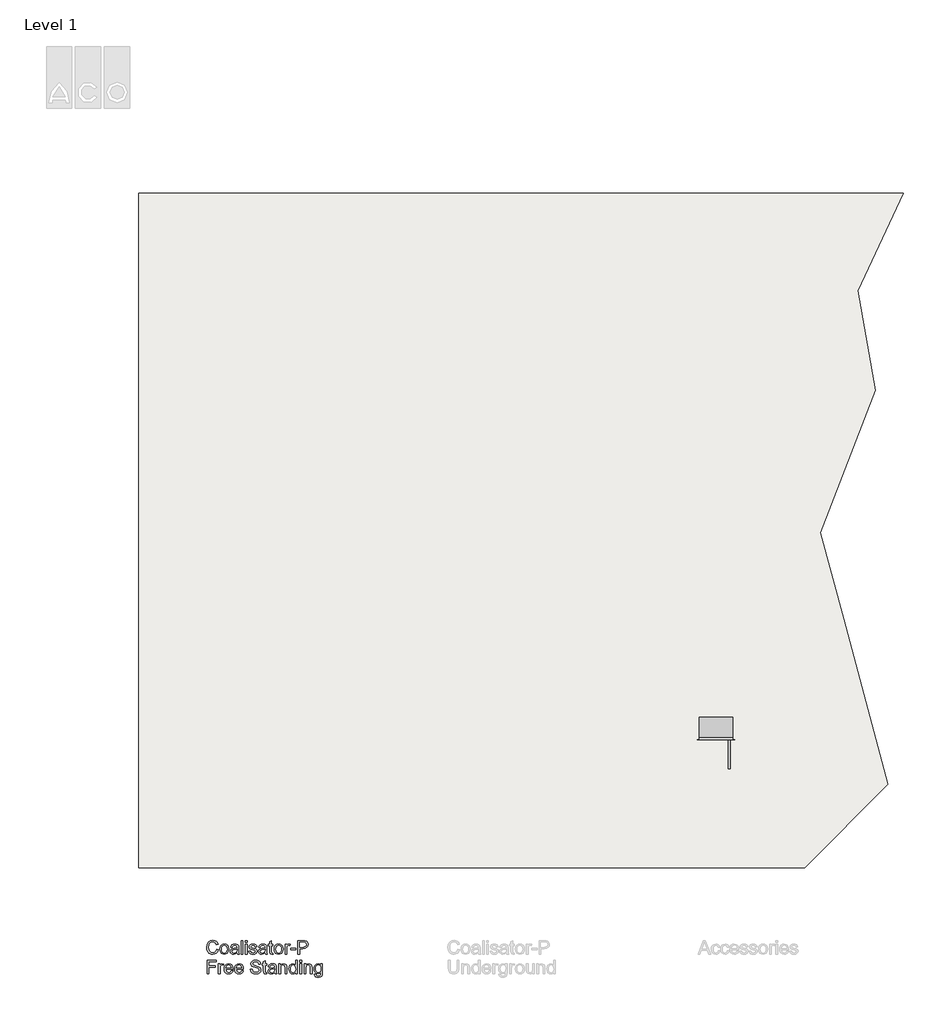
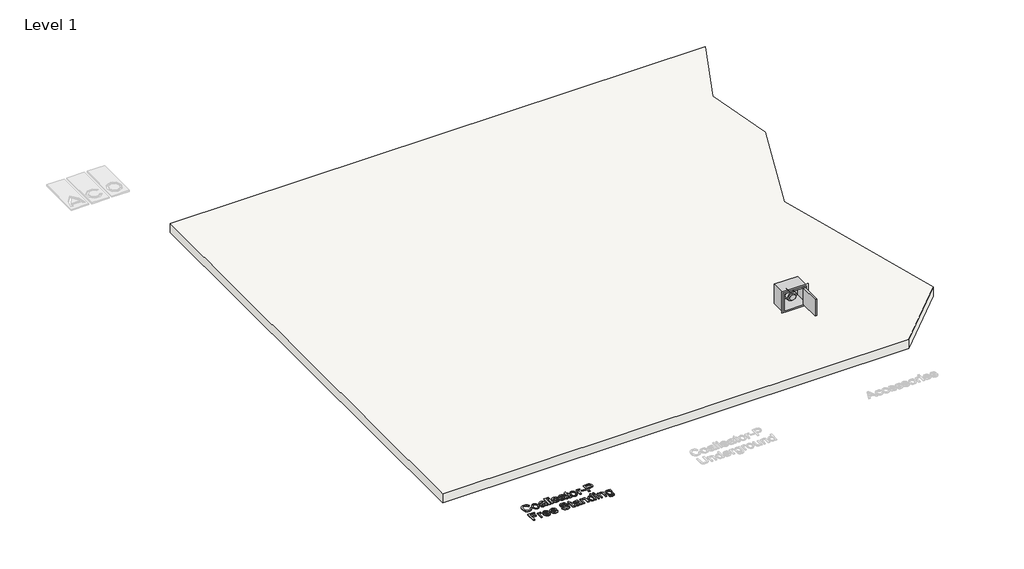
# One storey, part 1 of 2: 1 furniture element, 1 proxy, 1 slab.
"""IFC4 building model written with IfcOpenShell, lengths in millimetres."""

import ifcopenshell
import ifcopenshell.guid

model = None  # the IFC model being written
_history = None  # IfcOwnerHistory: only IFC2X3 demands one
_inside = {}  # id of a spatial element -> (the spatial element, [elements in it])
_under = {}  # id of a project, library or spatial element -> (it, [spatial elements below it])
_declared = {}  # id of a project -> (the project, [libraries it declares])
_typed = {}  # id of a type object -> (the type object, [elements of that type])
_made_of = {}  # id of a material, layer set ... -> (it, [elements and type objects made of it])


def new_model(schema):
    """Start an empty IFC model of exactly this schema.

    Asked for "IFC4X3", IfcOpenShell would pick the latest addendum, in which some entities
    have other attributes; the version numbers below select the first issue.
    IFC2X3 requires an IfcOwnerHistory on every rooted entity: one is made here for all.
    """
    global model, _history
    if schema == "IFC4X3":
        model = ifcopenshell.file(schema_version=(4, 3, 0, 0))
    else:
        model = ifcopenshell.file(schema=schema)
    _inside.clear()
    _under.clear()
    _declared.clear()
    _typed.clear()
    _made_of.clear()
    _history = None
    if model.schema == "IFC2X3":
        org = make("IfcOrganization", Name="unknown")
        user = make(
            "IfcPersonAndOrganization",
            ThePerson=make("IfcPerson", FamilyName="unknown"),
            TheOrganization=org,
        )
        app = make(
            "IfcApplication",
            ApplicationDeveloper=org,
            Version="unknown",
            ApplicationFullName="unknown",
            ApplicationIdentifier="unknown",
        )
        _history = make(
            "IfcOwnerHistory",
            OwningUser=user,
            OwningApplication=app,
            ChangeAction="ADDED",
            CreationDate=0,
        )
    return model


def make(cls, **values):
    """One entity of the class cls with the attributes given. An attribute that is None is left unset."""
    return model.create_entity(
        cls, **{name: value for name, value in values.items() if value is not None}
    )


def rooted(cls, **values):
    """An entity with a GlobalId (a new one), such as an element, a storey or a relation."""
    return make(cls, GlobalId=ifcopenshell.guid.new(), OwnerHistory=_history, **values)


def si_unit(unit_type, name, prefix=None):
    """IfcSIUnit, for example si_unit("LENGTHUNIT", "METRE", prefix="MILLI")."""
    return make("IfcSIUnit", UnitType=unit_type, Prefix=prefix, Name=name)


def assignment(units):
    """IfcUnitAssignment: the units of a project."""
    return None if units is None else make("IfcUnitAssignment", Units=units)


def point(xyz):
    """IfcCartesianPoint."""
    return None if xyz is None else make("IfcCartesianPoint", Coordinates=xyz)


def direction(xyz):
    """IfcDirection."""
    return None if xyz is None else make("IfcDirection", DirectionRatios=xyz)


def frame(location, z_axis=None, x_axis=None):
    """IfcAxis2Placement3D, a coordinate frame: its origin and axes. An axis left out is left unset."""
    return make(
        "IfcAxis2Placement3D",
        Location=point(location),
        Axis=direction(z_axis),
        RefDirection=direction(x_axis),
    )


def frame_2d(location, x_axis=None):
    """IfcAxis2Placement2D, a coordinate frame in the plane: its origin and x axis."""
    return make(
        "IfcAxis2Placement2D", Location=point(location), RefDirection=direction(x_axis)
    )


def origin():
    """The frame at (0, 0, 0) with its axes left unset."""
    return frame((0.0, 0.0, 0.0))


def origin_with_axes():
    """The frame at (0, 0, 0) with the z axis (0, 0, 1) and the x axis (1, 0, 0) written out."""
    return frame((0.0, 0.0, 0.0), z_axis=(0.0, 0.0, 1.0), x_axis=(1.0, 0.0, 0.0))


def place(relative_to, where):
    """IfcLocalPlacement: puts the frame where relative to a parent placement (None: the world)."""
    return make(
        "IfcLocalPlacement", PlacementRelTo=relative_to, RelativePlacement=where
    )


def context(
    kind, dimensions, precision=None, world=None, true_north=None, identifier=None
):
    """IfcGeometricRepresentationContext, for example the 3D "Model" context."""
    return make(
        "IfcGeometricRepresentationContext",
        ContextIdentifier=identifier,
        ContextType=kind,
        CoordinateSpaceDimension=dimensions,
        Precision=precision,
        WorldCoordinateSystem=world,
        TrueNorth=true_north,
    )


def project(units=None, contexts=None):
    """IfcProject with its units and contexts."""
    return rooted(
        "IfcProject",
        Name="project",
        RepresentationContexts=contexts,
        UnitsInContext=assignment(units),
    )


def spatial(cls, under=None, at=None, **own):
    """A site, building, storey or space (cls), placed at a placement, below another one or the project."""
    s = rooted(cls, ObjectPlacement=at, **own)
    if under is not None:
        _under.setdefault(under.id(), (under, []))[1].append(s)
    return s


def polyline(points):
    """IfcPolyline through the points."""
    return make("IfcPolyline", Points=[point(p) for p in points])


def circle_curve(where, radius):
    """IfcCircle in the frame where."""
    return make("IfcCircle", Position=where, Radius=radius)


def trimmed(basis, trim1, trim2, sense, master):
    """IfcTrimmedCurve: the piece of a basis curve between two trims."""
    return make(
        "IfcTrimmedCurve",
        BasisCurve=basis,
        Trim1=trim1,
        Trim2=trim2,
        SenseAgreement=sense,
        MasterRepresentation=master,
    )


def segment(curve, same_sense, transition):
    """IfcCompositeCurveSegment."""
    return make(
        "IfcCompositeCurveSegment",
        Transition=transition,
        SameSense=same_sense,
        ParentCurve=curve,
    )


def composite_curve(segments, self_intersect=None):
    """IfcCompositeCurve: segments joined end to end."""
    return make("IfcCompositeCurve", Segments=segments, SelfIntersect=self_intersect)


def outline(outer, holes=None, kind="AREA"):
    """IfcArbitraryClosedProfileDef: a profile drawn as a closed curve; with holes, ...WithVoids."""
    if holes is None:
        return make("IfcArbitraryClosedProfileDef", ProfileType=kind, OuterCurve=outer)
    return make(
        "IfcArbitraryProfileDefWithVoids",
        ProfileType=kind,
        OuterCurve=outer,
        InnerCurves=holes,
    )


def extrude(swept, where, along, depth):
    """IfcExtrudedAreaSolid: the profile swept, set in the frame where, extruded along a direction by depth."""
    return make(
        "IfcExtrudedAreaSolid",
        SweptArea=swept,
        Position=where,
        ExtrudedDirection=direction(along),
        Depth=depth,
    )


def shape(context_of_items, identifier, shape_type, items):
    """IfcShapeRepresentation: the items that make up one representation, for example the "Body"."""
    return make(
        "IfcShapeRepresentation",
        ContextOfItems=context_of_items,
        RepresentationIdentifier=identifier,
        RepresentationType=shape_type,
        Items=items,
    )


def source(mapping_origin, context_of_items, identifier, shape_type, items):
    """IfcRepresentationMap: a shape defined once, which mapped items show again and again."""
    return make(
        "IfcRepresentationMap",
        MappingOrigin=mapping_origin,
        MappedRepresentation=shape(context_of_items, identifier, shape_type, items),
    )


def transform(
    local_origin,
    x_axis=None,
    y_axis=None,
    z_axis=None,
    scale=None,
    scale2=None,
    scale3=None,
    uniform=True,
):
    """IfcCartesianTransformationOperator3D, or its non-uniform kind. x_axis, y_axis, z_axis: its Axis1, 2, 3."""
    if uniform:
        return make(
            "IfcCartesianTransformationOperator3D",
            Axis1=direction(x_axis),
            Axis2=direction(y_axis),
            LocalOrigin=point(local_origin),
            Scale=scale,
            Axis3=direction(z_axis),
        )
    return make(
        "IfcCartesianTransformationOperator3DnonUniform",
        Axis1=direction(x_axis),
        Axis2=direction(y_axis),
        LocalOrigin=point(local_origin),
        Scale=scale,
        Axis3=direction(z_axis),
        Scale2=scale2,
        Scale3=scale3,
    )


def mapped(mapping_source, mapping_target):
    """IfcMappedItem: shows the shape of a source again, moved by a transform."""
    return make(
        "IfcMappedItem", MappingSource=mapping_source, MappingTarget=mapping_target
    )


def made_of(thing, what):
    """Note that an element or type object is made of a material, layer set ...; save() writes the relation."""
    if what is not None:
        _made_of.setdefault(what.id(), (what, []))[1].append(thing)
    return thing


def element(
    cls,
    number,
    at=None,
    inside=None,
    cuts=None,
    type_object=None,
    material=None,
    context=None,
    identifier="Body",
    shape_type=None,
    held_by="IfcProductDefinitionShape",
    body=None,
    shapes=None,
    **own,
):
    """One element of the class cls, such as IfcWall. Its Tag is "e" and its number.

    at: its placement. inside: the storey or other place that contains it. cuts: it is an
    opening in that element (IfcRelVoidsElement). A single representation is given by context,
    identifier, shape_type and body (its items); several are given by shapes. held_by: the class
    of the entity that holds the representations. save() writes the other relations.
    """
    e = rooted(cls, Tag="e%d" % number, ObjectPlacement=at, **own)
    if body is not None:
        shapes = [shape(context, identifier, shape_type, body)]
    if shapes is not None:
        e.Representation = make(held_by, Representations=shapes)
    if inside is not None:
        _inside.setdefault(inside.id(), (inside, []))[1].append(e)
    if cuts is not None:
        rooted(
            "IfcRelVoidsElement", RelatingBuildingElement=cuts, RelatedOpeningElement=e
        )
    if type_object is not None:
        _typed.setdefault(type_object.id(), (type_object, []))[1].append(e)
    return made_of(e, material)


def aggregate(whole, parts):
    """IfcRelAggregates: a whole, such as a stair, and the parts it consists of."""
    return rooted("IfcRelAggregates", RelatingObject=whole, RelatedObjects=parts)


def save(model, path):
    """Write the relations noted so far, then the file.

    IfcRelAggregates (storeys below a building ...), IfcRelContainedInSpatialStructure (elements
    in a storey), IfcRelDefinesByType, IfcRelAssociatesMaterial and IfcRelDeclares: one each for
    every whole, place, type object, material and project.
    """
    for whole, parts in _under.values():
        aggregate(whole, parts)
    for where, things in _inside.values():
        rooted(
            "IfcRelContainedInSpatialStructure",
            RelatedElements=things,
            RelatingStructure=where,
        )
    for kind, things in _typed.values():
        rooted("IfcRelDefinesByType", RelatedObjects=things, RelatingType=kind)
    for what, things in _made_of.values():
        rooted("IfcRelAssociatesMaterial", RelatedObjects=things, RelatingMaterial=what)
    for by, libraries in _declared.values():
        rooted("IfcRelDeclares", RelatingContext=by, RelatedDefinitions=libraries)
    model.write(path)


def plane_surface(at):
    """IfcPlane: the flat surface through the origin of the frame at, square to its z axis."""
    return make("IfcPlane", Position=at)


def cylinder_surface(at, radius):
    """IfcCylindricalSurface: all points at the distance radius from the z axis of the frame at."""
    return make("IfcCylindricalSurface", Position=at, Radius=radius)


def revolved_surface(curve, axis_point, axis_direction):
    """IfcSurfaceOfRevolution: the curve turned about the line through axis_point along axis_direction."""
    return make(
        "IfcSurfaceOfRevolution",
        SweptCurve=make("IfcArbitraryOpenProfileDef", ProfileType="CURVE", Curve=curve),
        AxisPosition=make("IfcAxis1Placement", Location=point(axis_point), Axis=direction(axis_direction)),
    )


def advanced_brep(points, edges, surfaces, faces):
    """IfcAdvancedBrep: a solid bounded by faces that lie on surfaces and meet in shared edges.

    An edge is (start, end): straight between two places in points (the first is 0);
    or (start, end, curve); or (start, end, curve, False) where it runs against its curve.
    A face is (place in surfaces, loops), or (place, loops, False) where it looks against
    its surface's normal. A loop lists edges by number (the first is 1), with a minus sign
    where the edge is run from its end to its start. The first loop is the outer one.
    """
    corners = [point(p) for p in points]
    vertices = [make("IfcVertexPoint", VertexGeometry=c) for c in corners]
    made = []
    for start, end, *more in edges:
        made.append(
            make(
                "IfcEdgeCurve",
                EdgeStart=vertices[start],
                EdgeEnd=vertices[end],
                EdgeGeometry=more[0] if more else make("IfcPolyline", Points=[corners[start], corners[end]]),
                SameSense=more[1] if len(more) > 1 else True,
            )
        )
    hull = []
    for where, loops, *sense in faces:
        bounds = []
        for j, loop in enumerate(loops):
            ring = [make("IfcOrientedEdge", EdgeElement=made[abs(k) - 1], Orientation=k > 0) for k in loop]
            bounds.append(
                make(
                    "IfcFaceOuterBound" if j == 0 else "IfcFaceBound",
                    Bound=make("IfcEdgeLoop", EdgeList=ring),
                    Orientation=True,
                )
            )
        hull.append(make("IfcAdvancedFace", Bounds=bounds, FaceSurface=surfaces[where], SameSense=sense[0] if sense else True))
    return make("IfcAdvancedBrep", Outer=make("IfcClosedShell", CfsFaces=hull))


def furniture_370x330x250_b7c620b6(model_context):
    return source(origin(), model_context, "Body", "SolidModel", [
        extrude(outline(composite_curve([segment(trimmed(circle_curve(frame_2d((175.0, -10.0)), 25.0), [point((150.0, -10.0))], [point((200.0, -10.0))], False, "CARTESIAN"), True, "CONTINUOUS"), segment(trimmed(circle_curve(frame_2d((175.0, -10.0)), 25.0), [point((200.0, -10.0))], [point((150.0, -10.0))], False, "CARTESIAN"), True, "CONTINUOUS")], self_intersect=False)), frame((0.0, 148.0, 0.0), z_axis=(0.0, 1.0, 0.0), x_axis=(0.0, 0.0, 1.0)), (0.0, 0.0, 1.0), 102.0),
        advanced_brep(
        [(-10.0, 148.0, 127.0), (-10.0, 148.0, 223.0), (-10.0, 40.0, 127.0), (-10.0, 40.0, 223.0), (-10.0, 118.0, 223.0), (-10.0, 118.0, 127.0), (-10.0, 70.0, 127.0), (-10.0, 70.0, 223.0), (-10.0, 118.0, 100.0), (-10.0, 118.0, 250.0), (-10.0, 70.0, 100.0), (-10.0, 70.0, 250.0)],
        [
            (0, 1, circle_curve(frame((-10.0, 148.0, 175.0), z_axis=(0.0, 1.0, 0.0), x_axis=(0.0, 0.0, 1.0)), 48.0)),
            (1, 0, circle_curve(frame((-10.0, 148.0, 175.0), z_axis=(0.0, 1.0, 0.0), x_axis=(0.0, 0.0, 1.0)), 48.0)),
            (2, 3, circle_curve(frame((-10.0, 40.0, 175.0), z_axis=(0.0, -1.0, 0.0), x_axis=(0.0, 0.0, 1.0)), 48.0)),
            (3, 2, circle_curve(frame((-10.0, 40.0, 175.0), z_axis=(0.0, -1.0, 0.0), x_axis=(0.0, 0.0, 1.0)), 48.0)),
            (1, 4),
            (4, 5, circle_curve(frame((-10.0, 118.0, 175.0), z_axis=(0.0, 1.0, 0.0), x_axis=(0.0, 0.0, 1.0)), 48.0)),
            (5, 0),
            (2, 6),
            (6, 7, circle_curve(frame((-10.0, 70.0, 175.0), z_axis=(0.0, -1.0, 0.0), x_axis=(0.0, 0.0, 1.0)), 48.0)),
            (7, 3),
            (5, 4, circle_curve(frame((-10.0, 118.0, 175.0), z_axis=(0.0, 1.0, 0.0), x_axis=(0.0, 0.0, 1.0)), 48.0)),
            (7, 6, circle_curve(frame((-10.0, 70.0, 175.0), z_axis=(0.0, -1.0, 0.0), x_axis=(0.0, 0.0, 1.0)), 48.0)),
            (8, 9, circle_curve(frame((-10.0, 118.0, 175.0), z_axis=(0.0, 1.0, 0.0), x_axis=(0.0, 0.0, 1.0)), 75.0)),
            (9, 8, circle_curve(frame((-10.0, 118.0, 175.0), z_axis=(0.0, 1.0, 0.0), x_axis=(0.0, 0.0, 1.0)), 75.0)),
            (10, 11, circle_curve(frame((-10.0, 70.0, 175.0), z_axis=(0.0, -1.0, 0.0), x_axis=(0.0, 0.0, 1.0)), 75.0)),
            (11, 10, circle_curve(frame((-10.0, 70.0, 175.0), z_axis=(0.0, -1.0, 0.0), x_axis=(0.0, 0.0, 1.0)), 75.0)),
            (9, 11),
            (10, 8),
        ],
        [
            plane_surface(frame((-10.0, 148.0, 223.0), z_axis=(0.0, 1.0, 0.0), x_axis=(1.0, 0.0, 0.0))),
            plane_surface(frame((-10.0, 40.0, 223.0), z_axis=(0.0, -1.0, 0.0), x_axis=(-1.0, 0.0, 0.0))),
            cylinder_surface(frame((-10.0, 148.0, 175.0), z_axis=(0.0, -1.0, 0.0), x_axis=(0.0, 0.0, 1.0)), 48.0),
            plane_surface(frame((-10.0, 118.0, 250.0), z_axis=(0.0, 1.0, 0.0), x_axis=(1.0, 0.0, 0.0))),
            plane_surface(frame((-10.0, 70.0, 250.0), z_axis=(0.0, -1.0, 0.0), x_axis=(-1.0, 0.0, 0.0))),
            cylinder_surface(frame((-10.0, 118.0, 175.0), z_axis=(0.0, -1.0, 0.0), x_axis=(0.0, 0.0, 1.0)), 75.0),
        ],
        [
            (0, [[1, 2]]),
            (1, [[3, 4]]),
            (2, [[-2, 5, 6, 7]]),
            (2, [[-3, 8, 9, 10]]),
            (2, [[-1, -7, 11, -5]]),
            (2, [[-4, -10, 12, -8]]),
            (3, [[13, 14], [-6, -11]]),
            (4, [[15, 16], [-9, -12]]),
            (5, [[-14, 17, -15, 18]]),
            (5, [[-13, -18, -16, -17]]),
        ],
    ),
        extrude(outline(polyline([(134.5, -319.0), (134.5, 0.0), (159.5, 0.0), (159.5, -319.0), (134.5, -319.0)])), frame((0.0, 0.0, 25.5), z_axis=(0.0, 0.0, 1.0), x_axis=(1.0, 0.0, 0.0)), (0.0, 0.0, 1.0), 279.0),
        advanced_brep(
        [(185.0, 250.0, 330.0), (-185.0, 250.0, 330.0), (-185.0, 0.0, 330.0), (185.0, 0.0, 330.0), (185.0, 250.0, 0.0), (185.0, 0.0, 0.0), (-185.0, 0.0, 0.0), (-185.0, 250.0, 0.0), (-56.0, 250.0, 175.0), (36.0, 250.0, 175.0), (70.0, 250.0, 175.0), (110.0, 250.0, 175.0), (-160.0, 0.0, 305.0), (160.0, 0.0, 305.0), (160.0, 0.0, 25.0), (-160.0, 0.0, 25.0), (183.0, 248.0, 305.0), (183.0, 2.0, 305.0), (160.0, 2.0, 305.0), (-160.0, 2.0, 305.0), (-183.0, 2.0, 305.0), (-183.0, 248.0, 305.0), (183.0, 248.0, 25.0), (-183.0, 248.0, 25.0), (-183.0, 2.0, 25.0), (-160.0, 2.0, 25.0), (160.0, 2.0, 25.0), (183.0, 2.0, 25.0), (36.0, 248.0, 175.0), (-56.0, 248.0, 175.0), (110.0, 248.0, 175.0), (70.0, 248.0, 175.0)],
        [
            (0, 1),
            (1, 2),
            (2, 3),
            (3, 0),
            (4, 5),
            (5, 6),
            (6, 7),
            (7, 4),
            (0, 4),
            (7, 1),
            (8, 9, circle_curve(frame((-10.0, 250.0, 175.0), z_axis=(0.0, -1.0, 0.0), x_axis=(1.0, 0.0, 0.0)), 46.0)),
            (9, 8, circle_curve(frame((-10.0, 250.0, 175.0), z_axis=(0.0, -1.0, 0.0), x_axis=(1.0, 0.0, 0.0)), 46.0)),
            (10, 11, circle_curve(frame((90.0, 250.0, 175.0), z_axis=(0.0, -1.0, 0.0), x_axis=(1.0, 0.0, 0.0)), 20.0)),
            (11, 10, circle_curve(frame((90.0, 250.0, 175.0), z_axis=(0.0, -1.0, 0.0), x_axis=(1.0, 0.0, 0.0)), 20.0)),
            (6, 2),
            (5, 3),
            (12, 13),
            (13, 14),
            (14, 15),
            (15, 12),
            (16, 17),
            (17, 18),
            (18, 13),
            (12, 19),
            (19, 20),
            (20, 21),
            (21, 16),
            (22, 23),
            (23, 24),
            (24, 25),
            (25, 15),
            (14, 26),
            (26, 27),
            (27, 22),
            (21, 23),
            (22, 16),
            (28, 29, circle_curve(frame((-10.0, 248.0, 175.0), z_axis=(0.0, 1.0, 0.0), x_axis=(1.0, 0.0, 0.0)), 46.0)),
            (29, 28, circle_curve(frame((-10.0, 248.0, 175.0), z_axis=(0.0, 1.0, 0.0), x_axis=(1.0, 0.0, 0.0)), 46.0)),
            (30, 31, circle_curve(frame((90.0, 248.0, 175.0), z_axis=(0.0, 1.0, 0.0), x_axis=(1.0, 0.0, 0.0)), 20.0)),
            (31, 30, circle_curve(frame((90.0, 248.0, 175.0), z_axis=(0.0, 1.0, 0.0), x_axis=(1.0, 0.0, 0.0)), 20.0)),
            (27, 17),
            (20, 24),
            (19, 25),
            (18, 26),
            (28, 9),
            (8, 29),
            (30, 11),
            (10, 31),
        ],
        [
            plane_surface(frame((-185.0, 250.0, 330.0), z_axis=(0.0, 0.0, 1.0), x_axis=(-1.0, 0.0, 0.0))),
            plane_surface(frame((-185.0, 250.0, 0.0), z_axis=(0.0, 0.0, -1.0), x_axis=(1.0, 0.0, 0.0))),
            plane_surface(frame((185.0, 250.0, 330.0), z_axis=(0.0, 1.0, 0.0), x_axis=(0.0, 0.0, -1.0))),
            plane_surface(frame((-185.0, 250.0, 330.0), z_axis=(-1.0, 0.0, 0.0), x_axis=(0.0, 0.0, -1.0))),
            plane_surface(frame((-185.0, 0.0, 330.0), z_axis=(0.0, -1.0, 0.0), x_axis=(0.0, 0.0, -1.0))),
            plane_surface(frame((185.0, 0.0, 330.0), z_axis=(1.0, 0.0, 0.0), x_axis=(0.0, 0.0, -1.0))),
            plane_surface(frame((-183.0, 248.0, 305.0), z_axis=(0.0, 0.0, -1.0), x_axis=(-1.0, 0.0, 0.0))),
            plane_surface(frame((-183.0, 248.0, 25.0), z_axis=(0.0, 0.0, 1.0), x_axis=(1.0, 0.0, 0.0))),
            plane_surface(frame((183.0, 248.0, 305.0), z_axis=(0.0, -1.0, 0.0), x_axis=(0.0, 0.0, -1.0))),
            plane_surface(frame((183.0, 2.0, 305.0), z_axis=(-1.0, 0.0, 0.0), x_axis=(0.0, 0.0, -1.0))),
            plane_surface(frame((-183.0, 248.0, 305.0), z_axis=(1.0, 0.0, 0.0), x_axis=(0.0, 0.0, -1.0))),
            plane_surface(frame((-183.0, 2.0, 305.0), z_axis=(0.0, 1.0, 0.0), x_axis=(0.0, 0.0, -1.0))),
            plane_surface(frame((-160.0, 2.0, 305.0), z_axis=(1.0, 0.0, 0.0), x_axis=(0.0, 0.0, -1.0))),
            plane_surface(frame((160.0, 0.0, 305.0), z_axis=(-1.0, 0.0, 0.0), x_axis=(0.0, 0.0, -1.0))),
            plane_surface(frame((160.0, 2.0, 305.0), z_axis=(0.0, 1.0, 0.0), x_axis=(0.0, 0.0, -1.0))),
            revolved_surface(polyline([(36.0, 248.0, 175.0), (36.0, 250.0, 175.0)]), (-10.0, 250.0, 175.0), (0.0, -1.0, 0.0)),
            revolved_surface(polyline([(110.0, 248.0, 175.0), (110.0, 250.0, 175.0)]), (90.0, 250.0, 175.0), (0.0, -1.0, 0.0)),
        ],
        [
            (0, [[1, 2, 3, 4]]),
            (1, [[5, 6, 7, 8]]),
            (2, [[-1, 9, -8, 10], [11, 12], [13, 14]]),
            (3, [[-2, -10, -7, 15]]),
            (4, [[-3, -15, -6, 16], [17, 18, 19, 20]]),
            (5, [[-4, -16, -5, -9]]),
            (6, [[21, 22, 23, -17, 24, 25, 26, 27]]),
            (7, [[28, 29, 30, 31, -19, 32, 33, 34]]),
            (8, [[-27, 35, -28, 36], [37, 38], [39, 40]]),
            (9, [[-21, -36, -34, 41]]),
            (10, [[-26, 42, -29, -35]]),
            (11, [[-25, 43, -30, -42]]),
            (12, [[-24, -20, -31, -43]]),
            (13, [[-23, 44, -32, -18]]),
            (14, [[-22, -41, -33, -44]]),
            (15, [[45, -11, 46, -37]]),
            (15, [[-45, -38, -46, -12]]),
            (16, [[47, -13, 48, -39]]),
            (16, [[-47, -40, -48, -14]]),
        ],
    ),
    ])


model = new_model("IFC4")

# Units and contexts
model_context = context("Model", 3, world=origin())
ifc_project = project(units=[si_unit("LENGTHUNIT", "METRE", prefix="MILLI")], contexts=[model_context])

# Site, building, storey
site = spatial("IfcSite", under=ifc_project)
building = spatial("IfcBuilding", under=site)
storey = spatial("IfcBuildingStorey", under=building, Name="Level 1", Elevation=0.0)

# Proxy
placement = place(None, origin())
element("IfcBuildingElementProxy", 1, Name="100mm ACO", ObjectType="100mm ACO", at=placement, inside=storey, context=model_context, shape_type="SweptSolid", body=[
    extrude(outline(polyline([(651.8134705, -2076.8716846), (642.9430278, -2099.1101829), (629.2657274, -2114.8708166), (611.5845208, -2124.2620926), (590.7023594, -2127.392518), (573.7915521, -2125.9466629), (559.3438524, -2121.6090978), (547.3592604, -2114.3798226), (537.837776, -2104.2588374), (525.4028802, -2078.7705562), (521.2579149, -2048.5730735), (526.1244514, -2016.4929954), (540.7240607, -1992.2145666), (562.9734097, -1976.9313634), (590.7891649, -1971.8369624), (610.759868, -1974.5550614), (627.6164219, -1982.7093582), (640.6209791, -1996.1045405), (649.0356927, -2014.5452957), (629.5912482, -2019.0591846), (623.4660312, -2005.7182558), (614.8126024, -1996.1642193), (603.6635139, -1990.4187766), (590.0513177, -1988.5036291), (568.7188524, -1992.5672141), (553.2457621, -2004.7579693), (543.83821, -2023.7846621), (540.7023594, -2048.3560596), (544.0226719, -2075.9005475), (553.9836094, -2095.3395666), (569.2830885, -2106.8792801), (588.619026, -2110.7258513), (604.4718906, -2108.3007211), (617.0478455, -2101.0253305), (626.3468906, -2088.877978), (632.369026, -2071.8369624), (651.8134705, -2076.8716846)])), origin_with_axes(), (0.0, 0.0, 1.0), 10.0),
    extrude(outline(polyline([(718.4367344, -2013.5036291), (738.2012743, -2017.0952089), (754.2657274, -2027.8699485), (764.9265347, -2045.2636117), (768.4801371, -2068.7119624), (764.6335659, -2096.1208166), (753.0938524, -2114.111268), (736.7364305, -2124.0722055), (718.4367344, -2127.392518), (699.5511007, -2123.9799746), (683.3455885, -2113.7423443), (672.1965, -2096.0936898), (668.4801371, -2070.4480735), (672.071717, -2045.3721187), (682.8464566, -2027.6095318), (698.9271857, -2017.0301048), (718.4367344, -2013.5036291)]), holes=[polyline([(718.4367344, -2113.5036291), (731.6474548, -2110.4925614), (741.2448941, -2101.4593582), (747.087993, -2087.5107905), (749.0356927, -2069.7536291), (746.8330017, -2051.3291499), (740.2249288, -2038.0696013), (730.3724982, -2030.0617888), (718.4367344, -2027.392518), (706.2676805, -2030.0997662), (696.4966302, -2038.221511), (690.0675937, -2051.7034989), (687.9245816, -2070.4914763), (690.1055712, -2089.2143496), (696.6485399, -2102.674636), (706.4575677, -2110.7963808), (718.4367344, -2113.5036291)])]), origin_with_axes(), (0.0, 0.0, 1.0), 10.0),
    extrude(outline(polyline([(885.1468038, -2124.6147402), (865.7023594, -2124.6147402), (860.1468038, -2111.5071013), (841.4076545, -2123.4211638), (821.2145121, -2127.392518), (806.2351284, -2125.2223791), (794.8039219, -2118.7119624), (787.5610833, -2108.642518), (785.1468038, -2095.7952957), (787.5122552, -2083.3332732), (794.6086094, -2073.2909555), (807.5534878, -2065.9504607), (827.4645121, -2061.5939068), (844.478401, -2058.9897402), (860.1468038, -2055.1702957), (859.6476719, -2043.1260249), (856.7396857, -2035.8126568), (848.9922899, -2029.7145666), (834.6259705, -2027.392518), (816.5053107, -2032.1017193), (810.8900764, -2038.8345753), (807.369026, -2049.6147402), (787.9245816, -2047.2275874), (793.2576979, -2032.5140457), (803.2674635, -2021.9671707), (817.9430278, -2015.6195145), (837.2735399, -2013.5036291), (854.3254062, -2014.9521968), (866.1580885, -2019.2978999), (873.6016649, -2025.6889589), (877.4862135, -2033.2735943), (879.5912482, -2054.345643), (879.5912482, -2079.1286291), (880.415901, -2109.5105735), (885.1468038, -2124.6147402)]), holes=[polyline([(860.1468038, -2076.0036291), (860.1468038, -2069.0591846), (825.2292691, -2077.0452957), (809.7507534, -2083.1325353), (804.5912482, -2095.4914763), (810.1468038, -2108.4255041), (826.1624288, -2113.5036291), (838.8197639, -2111.376893), (849.8820469, -2104.9966846), (857.5806146, -2093.4949485), (860.1468038, -2076.0036291)])]), origin_with_axes(), (0.0, 0.0, 1.0), 10.0),
    extrude(outline(polyline([(926.8134705, -2124.6147402), (907.369026, -2124.6147402), (907.369026, -1974.6147402), (926.8134705, -1974.6147402), (926.8134705, -2124.6147402)])), origin_with_axes(), (0.0, 0.0, 1.0), 10.0),
    extrude(outline(polyline([(974.0356927, -2124.6147402), (954.5912482, -2124.6147402), (954.5912482, -2016.2814068), (974.0356927, -2016.2814068), (974.0356927, -2124.6147402)])), origin_with_axes(), (0.0, 0.0, 1.0), 10.0),
    extrude(outline(polyline([(974.0356927, -1994.0591846), (954.5912482, -1994.0591846), (954.5912482, -1974.6147402), (974.0356927, -1974.6147402), (974.0356927, -1994.0591846)])), origin_with_axes(), (0.0, 0.0, 1.0), 10.0),
    extrude(outline(polyline([(1062.9245816, -2046.8369624), (1060.5211528, -2038.330018), (1055.7414219, -2032.2536291), (1039.1398594, -2027.392518), (1022.1693732, -2031.5591846), (1017.3191128, -2036.6698617), (1015.7023594, -2043.6685596), (1019.977533, -2054.3890457), (1040.1381232, -2060.205018), (1066.7223246, -2066.455018), (1080.2856927, -2075.9385249), (1085.1468038, -2092.9307124), (1082.1303107, -2106.3258947), (1073.0808316, -2117.4315805), (1058.9857795, -2124.9022836), (1040.8325677, -2127.392518), (1022.1205451, -2125.2983339), (1007.9983663, -2119.0157818), (998.4551805, -2108.5557124), (993.4801371, -2093.9289763), (1012.9245816, -2091.2814068), (1015.7403368, -2101.0307558), (1021.3230191, -2107.9697749), (1029.6834791, -2112.1201655), (1040.8325677, -2113.5036291), (1051.4553975, -2112.0659121), (1059.2787482, -2107.752761), (1064.0964566, -2101.377978), (1065.7023594, -2093.7553652), (1062.8160746, -2084.7926916), (1055.6112135, -2079.736268), (1035.2336094, -2075.3959902), (1015.4690694, -2070.5565805), (1003.8316996, -2063.6772402), (998.1513611, -2055.0075353), (996.2579149, -2044.7970318), (999.0628194, -2032.3675614), (1007.477533, -2022.3360943), (1020.634, -2015.7117454), (1037.6641649, -2013.5036291), (1055.5623854, -2015.4350527), (1068.9792691, -2021.2293235), (1077.9148159, -2030.8755909), (1082.369026, -2044.3630041), (1062.9245816, -2046.8369624)])), origin_with_axes(), (0.0, 0.0, 1.0), 10.0),
    extrude(outline(polyline([(1199.0356927, -2124.6147402), (1179.5912482, -2124.6147402), (1174.0356927, -2111.5071013), (1155.2965434, -2123.4211638), (1135.103401, -2127.392518), (1120.1240173, -2125.2223791), (1108.6928107, -2118.7119624), (1101.4499722, -2108.642518), (1099.0356927, -2095.7952957), (1101.4011441, -2083.3332732), (1108.4974982, -2073.2909555), (1121.4423767, -2065.9504607), (1141.353401, -2061.5939068), (1158.3672899, -2058.9897402), (1174.0356927, -2055.1702957), (1173.5365607, -2043.1260249), (1170.6285746, -2035.8126568), (1162.8811788, -2029.7145666), (1148.5148594, -2027.392518), (1130.3941996, -2032.1017193), (1124.7789653, -2038.8345753), (1121.2579149, -2049.6147402), (1101.8134705, -2047.2275874), (1107.1465868, -2032.5140457), (1117.1563524, -2021.9671707), (1131.8319166, -2015.6195145), (1151.1624288, -2013.5036291), (1168.2142951, -2014.9521968), (1180.0469774, -2019.2978999), (1187.4905538, -2025.6889589), (1191.3751024, -2033.2735943), (1193.4801371, -2054.345643), (1193.4801371, -2079.1286291), (1194.3047899, -2109.5105735), (1199.0356927, -2124.6147402)]), holes=[polyline([(1174.0356927, -2076.0036291), (1174.0356927, -2069.0591846), (1139.118158, -2077.0452957), (1123.6396423, -2083.1325353), (1118.4801371, -2095.4914763), (1124.0356927, -2108.4255041), (1140.0513177, -2113.5036291), (1152.7086528, -2111.376893), (1163.7709357, -2104.9966846), (1171.4695034, -2093.4949485), (1174.0356927, -2076.0036291)])]), origin_with_axes(), (0.0, 0.0, 1.0), 10.0),
    extrude(outline(polyline([(1262.9245816, -2126.1338374), (1249.2961094, -2127.392518), (1231.9132969, -2123.0739416), (1225.2509705, -2112.1147402), (1224.0356927, -2093.6251568), (1224.0356927, -2030.1702957), (1210.1468038, -2030.1702957), (1210.1468038, -2016.2814068), (1224.0356927, -2016.2814068), (1224.0356927, -1988.7640457), (1243.4801371, -1977.392518), (1243.4801371, -2016.2814068), (1260.1468038, -2016.2814068), (1260.1468038, -2030.1702957), (1243.4801371, -2030.1702957), (1243.4801371, -2097.5314068), (1245.0426371, -2109.8577957), (1252.9853455, -2113.5036291), (1260.5374288, -2113.5036291), (1262.9245816, -2126.1338374)])), origin_with_axes(), (0.0, 0.0, 1.0), 10.0),
    extrude(outline(polyline([(1323.9922899, -2013.5036291), (1343.7568298, -2017.0952089), (1359.821283, -2027.8699485), (1370.4820903, -2045.2636117), (1374.0356927, -2068.7119624), (1370.1891215, -2096.1208166), (1358.649408, -2114.111268), (1342.2919861, -2124.0722055), (1323.9922899, -2127.392518), (1305.1066562, -2123.9799746), (1288.9011441, -2113.7423443), (1277.7520555, -2096.0936898), (1274.0356927, -2070.4480735), (1277.6272725, -2045.3721187), (1288.4020121, -2027.6095318), (1304.4827413, -2017.0301048), (1323.9922899, -2013.5036291)]), holes=[polyline([(1323.9922899, -2113.5036291), (1337.2030104, -2110.4925614), (1346.8004496, -2101.4593582), (1352.6435486, -2087.5107905), (1354.5912482, -2069.7536291), (1352.3885573, -2051.3291499), (1345.7804844, -2038.0696013), (1335.9280538, -2030.0617888), (1323.9922899, -2027.392518), (1311.8232361, -2030.0997662), (1302.0521857, -2038.221511), (1295.6231493, -2051.7034989), (1293.4801371, -2070.4914763), (1295.6611267, -2089.2143496), (1302.2040955, -2102.674636), (1312.0131232, -2110.7963808), (1323.9922899, -2113.5036291)])]), origin_with_axes(), (0.0, 0.0, 1.0), 10.0),
    extrude(outline(polyline([(1454.5912482, -2017.7571013), (1448.5148594, -2030.1702957), (1435.7544427, -2027.392518), (1427.0630364, -2029.8339242), (1420.7804844, -2037.158143), (1416.9718906, -2048.876893), (1415.7023594, -2064.501893), (1415.7023594, -2124.6147402), (1396.2579149, -2124.6147402), (1396.2579149, -2016.2814068), (1412.9245816, -2016.2814068), (1412.9245816, -2032.3404346), (1423.3195469, -2018.2128305), (1435.9714566, -2013.5036291), (1454.5912482, -2017.7571013)])), origin_with_axes(), (0.0, 0.0, 1.0), 10.0),
    extrude(outline(polyline([(1515.7023594, -2074.6147402), (1457.369026, -2074.6147402), (1457.369026, -2060.7258513), (1515.7023594, -2060.7258513), (1515.7023594, -2074.6147402)])), origin_with_axes(), (0.0, 0.0, 1.0), 10.0),
    extrude(outline(polyline([(1537.9245816, -1974.6147402), (1594.2613871, -1974.6147402), (1617.2214566, -1975.9385249), (1635.103401, -1982.8178652), (1647.5816996, -1997.9003305), (1651.8134705, -2017.8439068), (1648.4768819, -2036.4908253), (1638.4671163, -2051.0253305), (1621.1005798, -2060.3840544), (1595.6936788, -2063.5036291), (1557.369026, -2063.5036291), (1557.369026, -2124.6147402), (1537.9245816, -2124.6147402), (1537.9245816, -1974.6147402)]), holes=[polyline([(1557.369026, -2046.8369624), (1596.4749288, -2046.8369624), (1612.1785963, -2045.0601612), (1623.3955017, -2039.7297575), (1630.1256449, -2030.8457515), (1632.369026, -2018.408143), (1627.7032274, -2001.9367888), (1616.2448941, -1993.0392193), (1596.040901, -1991.2814068), (1557.369026, -1991.2814068), (1557.369026, -2046.8369624)])]), origin_with_axes(), (0.0, 0.0, 1.0), 10.0),
    extrude(outline(polyline([(626.8134705, -2210.7258513), (546.2579149, -2210.7258513), (546.2579149, -2257.9480735), (615.7023594, -2257.9480735), (615.7023594, -2274.6147402), (546.2579149, -2274.6147402), (546.2579149, -2344.0591846), (526.8134705, -2344.0591846), (526.8134705, -2194.0591846), (626.8134705, -2194.0591846), (626.8134705, -2210.7258513)])), origin_with_axes(), (0.0, 0.0, 1.0), 10.0),
    extrude(outline(polyline([(710.1468038, -2237.2015457), (704.0704149, -2249.6147402), (691.3099982, -2246.8369624), (682.618592, -2249.2783687), (676.3360399, -2256.6025874), (672.5274462, -2268.3213374), (671.2579149, -2283.9463374), (671.2579149, -2344.0591846), (651.8134705, -2344.0591846), (651.8134705, -2235.7258513), (668.4801371, -2235.7258513), (668.4801371, -2251.7848791), (678.8751024, -2237.6572749), (691.5270121, -2232.9480735), (710.1468038, -2237.2015457)])), origin_with_axes(), (0.0, 0.0, 1.0), 10.0),
    extrude(outline(polyline([(815.7023594, -2294.0591846), (735.1468038, -2294.0591846), (738.2555278, -2310.7475527), (745.3247552, -2322.9654346), (755.4972812, -2330.4524138), (767.915901, -2332.9480735), (785.4289219, -2327.4142193), (796.2579149, -2310.7258513), (815.7023594, -2312.9827957), (809.1376892, -2327.4142193), (798.7318732, -2338.0696013), (784.8646857, -2344.6451221), (767.915901, -2346.8369624), (746.0354757, -2343.0771968), (729.5261441, -2331.7978999), (719.1583055, -2314.0081864), (715.7023594, -2290.7171707), (719.0335225, -2267.4098791), (729.0270121, -2248.9636985), (745.0751892, -2236.9519798), (766.5704149, -2232.9480735), (789.400276, -2238.1347055), (799.5511007, -2245.1442541), (808.0417691, -2255.799636), (813.7872118, -2271.6036725), (815.7023594, -2294.0591846)]), holes=[polyline([(796.2579149, -2280.1702957), (793.1329149, -2264.9359207), (786.0148594, -2254.6494624), (776.4770989, -2248.7900874), (766.0929844, -2246.8369624), (754.3091302, -2249.159011), (744.8256232, -2256.1251568), (738.2392517, -2266.7805388), (735.1468038, -2280.1702957), (796.2579149, -2280.1702957)])]), origin_with_axes(), (0.0, 0.0, 1.0), 10.0),
    extrude(outline(polyline([(932.369026, -2294.0591846), (851.8134705, -2294.0591846), (854.9221944, -2310.7475527), (861.9914219, -2322.9654346), (872.1639479, -2330.4524138), (884.5825677, -2332.9480735), (902.0955885, -2327.4142193), (912.9245816, -2310.7258513), (932.369026, -2312.9827957), (925.8043559, -2327.4142193), (915.3985399, -2338.0696013), (901.5313524, -2344.6451221), (884.5825677, -2346.8369624), (862.7021423, -2343.0771968), (846.1928107, -2331.7978999), (835.8249722, -2314.0081864), (832.369026, -2290.7171707), (835.7001892, -2267.4098791), (845.6936788, -2248.9636985), (861.7418559, -2236.9519798), (883.2370816, -2232.9480735), (906.0669427, -2238.1347055), (916.2177673, -2245.1442541), (924.7084357, -2255.799636), (930.4538784, -2271.6036725), (932.369026, -2294.0591846)]), holes=[polyline([(912.9245816, -2280.1702957), (909.7995816, -2264.9359207), (902.681526, -2254.6494624), (893.1437656, -2248.7900874), (882.759651, -2246.8369624), (870.9757969, -2249.159011), (861.4922899, -2256.1251568), (854.9059184, -2266.7805388), (851.8134705, -2280.1702957), (912.9245816, -2280.1702957)])]), origin_with_axes(), (0.0, 0.0, 1.0), 10.0),
    extrude(outline(polyline([(1101.8134705, -2238.5036291), (1098.7969774, -2225.1627003), (1092.0912482, -2215.6086638), (1081.696283, -2209.8632211), (1067.6120816, -2207.9480735), (1054.5478455, -2209.440044), (1044.1745816, -2213.9159555), (1037.4037482, -2221.2455996), (1035.1468038, -2231.298768), (1036.8232361, -2240.1258079), (1041.852533, -2246.3812332), (1069.1311788, -2255.8213374), (1098.883783, -2264.0461638), (1118.6103455, -2277.4359207), (1124.7626892, -2288.0587506), (1126.8134705, -2301.7848791), (1123.0537048, -2319.5420405), (1111.774408, -2334.0114416), (1094.4512743, -2343.6305822), (1072.5599982, -2346.8369624), (1045.5851719, -2343.2779346), (1026.3794427, -2332.6008513), (1014.6606927, -2316.2597055), (1010.1468038, -2295.7084902), (1029.5912482, -2294.0591846), (1033.5354757, -2310.3732037), (1042.8507969, -2321.5548443), (1056.1049201, -2328.0164329), (1071.8655538, -2330.1702957), (1086.2318732, -2328.3962072), (1097.5599982, -2323.0739416), (1104.9167691, -2314.7134815), (1107.369026, -2303.8248096), (1104.8353889, -2292.8330562), (1097.2344774, -2285.2918235), (1062.3169427, -2274.1156082), (1041.0007534, -2267.6051916), (1026.618158, -2258.7944277), (1018.431309, -2247.3523704), (1015.7023594, -2232.9480735), (1019.1257534, -2216.455018), (1029.3959357, -2203.0869624), (1045.5688958, -2194.2327957), (1066.7006232, -2191.2814068), (1088.5430712, -2194.2544971), (1105.6329149, -2203.173768), (1116.8959357, -2217.5617888), (1121.2579149, -2236.9411291), (1101.8134705, -2238.5036291)])), origin_with_axes(), (0.0, 0.0, 1.0), 10.0),
    extrude(outline(polyline([(1193.4801371, -2345.5782818), (1179.8516649, -2346.8369624), (1162.4688524, -2342.518386), (1155.806526, -2331.5591846), (1154.5912482, -2313.0696013), (1154.5912482, -2249.6147402), (1140.7023594, -2249.6147402), (1140.7023594, -2235.7258513), (1154.5912482, -2235.7258513), (1154.5912482, -2208.2084902), (1174.0356927, -2196.8369624), (1174.0356927, -2235.7258513), (1190.7023594, -2235.7258513), (1190.7023594, -2249.6147402), (1174.0356927, -2249.6147402), (1174.0356927, -2316.9758513), (1175.5981927, -2329.3022402), (1183.540901, -2332.9480735), (1191.0929844, -2332.9480735), (1193.4801371, -2345.5782818)])), origin_with_axes(), (0.0, 0.0, 1.0), 10.0),
    extrude(outline(polyline([(1304.5912482, -2344.0591846), (1285.1468038, -2344.0591846), (1279.5912482, -2330.9515457), (1260.8520989, -2342.8656082), (1240.6589566, -2346.8369624), (1225.6795729, -2344.6668235), (1214.2483663, -2338.1564068), (1207.0055278, -2328.0869624), (1204.5912482, -2315.2397402), (1206.9566996, -2302.7777176), (1214.0530538, -2292.7353999), (1226.9979323, -2285.3949051), (1246.9089566, -2281.0383513), (1263.9228455, -2278.4341846), (1279.5912482, -2274.6147402), (1279.0921163, -2262.5704693), (1276.1841302, -2255.2571013), (1268.4367344, -2249.159011), (1254.0704149, -2246.8369624), (1235.9497552, -2251.5461638), (1230.3345208, -2258.2790197), (1226.8134705, -2269.0591846), (1207.369026, -2266.6720318), (1212.7021423, -2251.9584902), (1222.711908, -2241.4116152), (1237.3874722, -2235.0639589), (1256.7179844, -2232.9480735), (1273.7698507, -2234.3966412), (1285.602533, -2238.7423443), (1293.0461094, -2245.1334034), (1296.930658, -2252.7180388), (1299.0356927, -2273.7900874), (1299.0356927, -2298.5730735), (1299.8603455, -2328.955018), (1304.5912482, -2344.0591846)]), holes=[polyline([(1279.5912482, -2295.4480735), (1279.5912482, -2288.5036291), (1244.6737135, -2296.4897402), (1229.1951979, -2302.5769798), (1224.0356927, -2314.9359207), (1229.5912482, -2327.8699485), (1245.6068732, -2332.9480735), (1258.2642083, -2330.8213374), (1269.3264913, -2324.4411291), (1277.025059, -2312.939393), (1279.5912482, -2295.4480735)])]), origin_with_axes(), (0.0, 0.0, 1.0), 10.0),
    extrude(outline(polyline([(1415.7023594, -2344.0591846), (1396.2579149, -2344.0591846), (1396.2579149, -2276.611268), (1394.8093472, -2262.2557992), (1390.4636441, -2253.2171707), (1383.5354757, -2248.4320145), (1374.3395121, -2246.8369624), (1359.3004496, -2250.9168235), (1349.2310052, -2262.4185596), (1346.2579149, -2283.4255041), (1346.2579149, -2344.0591846), (1326.8134705, -2344.0591846), (1326.8134705, -2235.7258513), (1343.4801371, -2235.7258513), (1343.4801371, -2250.7866152), (1358.3238871, -2237.3968582), (1378.2023594, -2232.9480735), (1395.259651, -2236.0296707), (1408.4540955, -2245.252761), (1414.4653802, -2258.3603999), (1415.7023594, -2277.1755041), (1415.7023594, -2344.0591846)])), origin_with_axes(), (0.0, 0.0, 1.0), 10.0),
    extrude(outline(polyline([(1532.369026, -2344.0591846), (1512.9245816, -2344.0591846), (1512.9245816, -2331.8196013), (1500.3920295, -2343.0826221), (1483.3238871, -2346.8369624), (1465.5233229, -2342.8764589), (1450.9237135, -2330.9949485), (1441.1743646, -2312.7983339), (1437.9245816, -2289.892518), (1441.0387309, -2266.2814068), (1450.3811788, -2248.2258513), (1464.8343038, -2236.767518), (1483.2804844, -2232.9480735), (1500.2075677, -2236.376893), (1512.5339566, -2246.6633513), (1512.9245816, -2194.0591846), (1532.369026, -2194.0591846), (1532.369026, -2344.0591846)]), holes=[polyline([(1485.5808316, -2332.9480735), (1496.1602587, -2330.3873096), (1504.9818732, -2322.705018), (1510.9389045, -2309.814393), (1512.9245816, -2291.6286291), (1511.1070903, -2273.2258513), (1505.6546163, -2258.9897402), (1496.805875, -2249.8751568), (1484.7995816, -2246.8369624), (1472.8800937, -2249.8100527), (1464.2917691, -2258.7293235), (1459.0997118, -2272.4771534), (1457.369026, -2289.9359207), (1461.1016649, -2313.5687332), (1471.5183316, -2328.0869624), (1485.5808316, -2332.9480735)])]), origin_with_axes(), (0.0, 0.0, 1.0), 10.0),
    extrude(outline(polyline([(1579.5912482, -2213.5036291), (1560.1468038, -2213.5036291), (1560.1468038, -2194.0591846), (1579.5912482, -2194.0591846), (1579.5912482, -2213.5036291)])), origin_with_axes(), (0.0, 0.0, 1.0), 10.0),
    extrude(outline(polyline([(1579.5912482, -2344.0591846), (1560.1468038, -2344.0591846), (1560.1468038, -2235.7258513), (1579.5912482, -2235.7258513), (1579.5912482, -2344.0591846)])), origin_with_axes(), (0.0, 0.0, 1.0), 10.0),
    extrude(outline(polyline([(1696.2579149, -2344.0591846), (1676.8134705, -2344.0591846), (1676.8134705, -2276.611268), (1675.3649028, -2262.2557992), (1671.0191996, -2253.2171707), (1664.0910312, -2248.4320145), (1654.8950677, -2246.8369624), (1639.8560052, -2250.9168235), (1629.7865607, -2262.4185596), (1626.8134705, -2283.4255041), (1626.8134705, -2344.0591846), (1607.369026, -2344.0591846), (1607.369026, -2235.7258513), (1624.0356927, -2235.7258513), (1624.0356927, -2250.7866152), (1638.8794427, -2237.3968582), (1658.7579149, -2232.9480735), (1675.8152066, -2236.0296707), (1689.009651, -2245.252761), (1695.0209357, -2258.3603999), (1696.2579149, -2277.1755041), (1696.2579149, -2344.0591846)])), origin_with_axes(), (0.0, 0.0, 1.0), 10.0),
    extrude(outline(polyline([(1812.9245816, -2328.0869624), (1808.3455885, -2362.049636), (1801.9816562, -2372.0214242), (1792.0478455, -2379.4975527), (1779.1897725, -2384.1687766), (1764.0530538, -2385.7258513), (1747.2290521, -2383.6153912), (1733.4757969, -2377.284011), (1724.3123854, -2366.1457732), (1721.2579149, -2349.6147402), (1740.7023594, -2352.6963374), (1742.8941996, -2361.0567975), (1747.5599982, -2367.0409555), (1764.3568732, -2371.8369624), (1776.1624288, -2370.4534989), (1784.322151, -2366.3031082), (1792.0695469, -2352.8265457), (1793.4801371, -2330.908143), (1780.3182448, -2340.7714242), (1764.0964566, -2344.0591846), (1745.509217, -2340.1420839), (1730.9801371, -2328.3907818), (1721.6051371, -2310.6715978), (1718.4801371, -2288.8508513), (1721.4532274, -2266.8890457), (1730.3724982, -2248.9202957), (1744.5435052, -2236.9411291), (1763.2718038, -2232.9480735), (1779.884217, -2236.517952), (1793.0895121, -2247.2275874), (1793.4801371, -2235.7258513), (1812.9245816, -2235.7258513), (1812.9245816, -2328.0869624)]), holes=[polyline([(1767.0044427, -2330.1702957), (1777.822585, -2327.7614416), (1787.3603455, -2320.5348791), (1794.0335225, -2307.6442541), (1796.2579149, -2288.2432124), (1794.1366041, -2270.5620058), (1787.7726719, -2257.5357471), (1778.2837396, -2249.5116586), (1766.7874288, -2246.8369624), (1755.2043125, -2249.5767628), (1745.9757969, -2257.7961638), (1739.9373854, -2270.7790197), (1737.9245816, -2287.8091846), (1740.0350416, -2306.8847055), (1746.3664219, -2320.0140457), (1755.7468472, -2327.6312332), (1767.0044427, -2330.1702957)])]), origin_with_axes(), (0.0, 0.0, 1.0), 10.0),
])

# Furniture
furniture_370x330x250_shape = furniture_370x330x250_b7c620b6(model_context)
element("IfcFurniture", 2, ObjectType="ME_ST_UN_connection box_ACO : 370x330x250", at=placement, inside=storey, context=model_context, shape_type="MappedRepresentation", body=[
    mapped(furniture_370x330x250_shape, transform((6200.0, 261.6933126, 0.0), x_axis=(1.0, 0.0, 0.0), y_axis=(0.0, 1.0, 0.0), z_axis=(0.0, 0.0, 1.0))),
])

# Slab
element("IfcSlab", 3, ObjectType="Floor 1", at=placement, inside=storey, context=model_context, shape_type="SweptSolid", body=[
    extrude(outline(polyline([(8284.7009305, 6353.8189675), (7777.6063816, 5266.3511979), (7972.7214236, 4159.7988071), (7363.4959094, 2572.7120821), (7622.3149545, 1606.7862558), (8115.7261662, -234.6494553), (7188.2707743, -1162.1048472), (-235.0158061, -1162.1048472), (-235.0158061, 6353.8189675), (8284.7009305, 6353.8189675)])), frame((0.0, 0.0, -150.0), z_axis=(0.0, 0.0, 1.0), x_axis=(1.0, 0.0, 0.0)), (0.0, 0.0, 1.0), 150.0),
])

save(model, "model.ifc")
